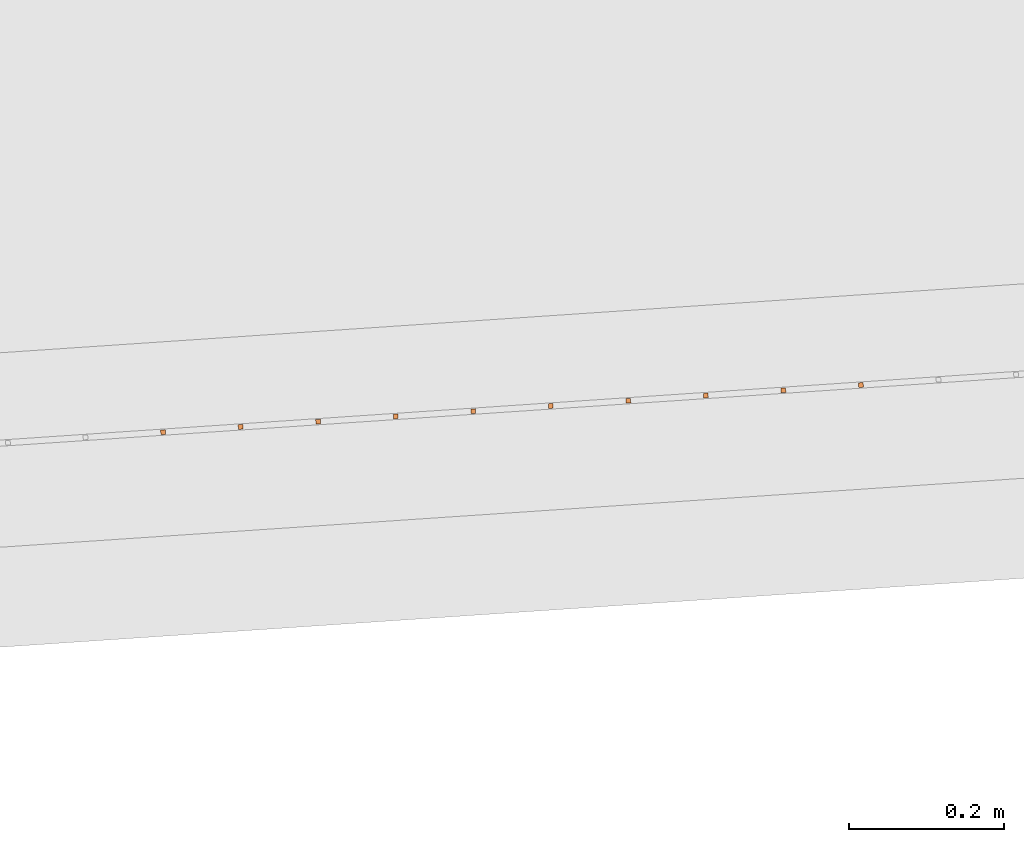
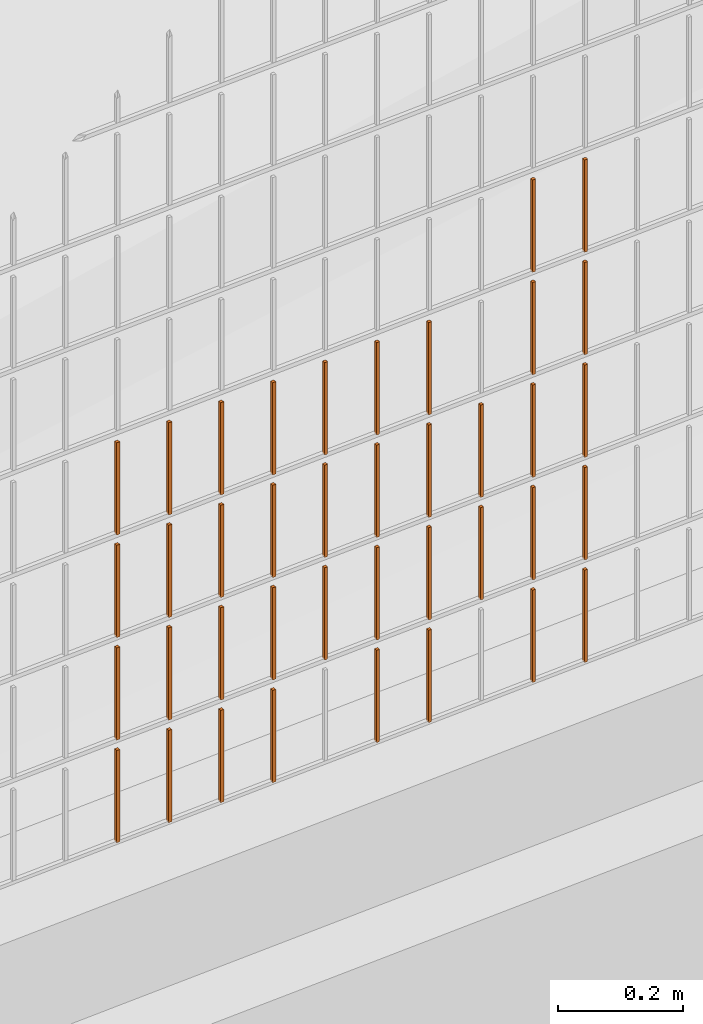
# One storey, part 91 of 1809: 39 proxies, 1 element without a shape of its own.
"""IFC2X3 building model written with IfcOpenShell, lengths in millimetres."""

from ifc_helpers import new_model, entity, si_unit, converted_unit, derived_unit, money_unit, direction, frame, origin_with_axes, place, context, subcontext, project, spatial, faceted_brep, source, transform, mapped, material, type_object, element, aggregate, save


model = new_model("IFC2X3")

# Units and contexts
model_context = context("Model", 3, precision=0.01, world=origin_with_axes(), true_north=direction((0.0, 1.0)))
body_context = subcontext(model_context, "Body", "Model", "MODEL_VIEW")
ifc_project = project(units=[si_unit("LENGTHUNIT", "METRE", prefix="MILLI"), si_unit("AREAUNIT", "SQUARE_METRE"), si_unit("VOLUMEUNIT", "CUBIC_METRE"), converted_unit("PLANEANGLEUNIT", "DEGREE", entity("IfcPlaneAngleMeasure", 0.0174532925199), si_unit("PLANEANGLEUNIT", "RADIAN"), dimensions=[0, 0, 0, 0, 0, 0, 0]), si_unit("SOLIDANGLEUNIT", "STERADIAN"), money_unit("EUR"), converted_unit("TIMEUNIT", "Year", entity("IfcTimeMeasure", 31556926.0), si_unit("TIMEUNIT", "SECOND"), dimensions=[0, 0, 1, 0, 0, 0, 0]), si_unit("MASSUNIT", "GRAM", prefix="KILO"), si_unit("THERMODYNAMICTEMPERATUREUNIT", "DEGREE_CELSIUS"), si_unit("LUMINOUSINTENSITYUNIT", "LUMEN"), si_unit("ENERGYUNIT", "JOULE", prefix="MEGA"), derived_unit("THERMALCONDUCTANCEUNIT", [(si_unit("POWERUNIT", "WATT"), 1), (si_unit("LENGTHUNIT", "METRE"), -1), (si_unit("THERMODYNAMICTEMPERATUREUNIT", "KELVIN"), -1)]), derived_unit("SPECIFICHEATCAPACITYUNIT", [(si_unit("ENERGYUNIT", "JOULE"), 1), (si_unit("MASSUNIT", "GRAM", prefix="KILO"), -1), (si_unit("THERMODYNAMICTEMPERATUREUNIT", "KELVIN"), -1)]), derived_unit("MASSDENSITYUNIT", [(si_unit("MASSUNIT", "GRAM", prefix="KILO"), 1), (si_unit("VOLUMEUNIT", "CUBIC_METRE"), -1)])], contexts=[model_context])

# Site, building, storey
site_placement = place(None, origin_with_axes())
site = spatial("IfcSite", under=ifc_project, at=site_placement, Name="Politse- ja Piirivalveameti ning Päästeameti ühishoone", CompositionType="ELEMENT")
building_placement = place(site_placement, origin_with_axes())
building = spatial("IfcBuilding", under=site, at=building_placement, Name="Politse- ja Piirivalveameti ning Päästeameti ühishoone", CompositionType="ELEMENT")
storey_placement = place(building_placement, origin_with_axes())
storey = spatial("IfcBuildingStorey", under=building, at=storey_placement, Name="Esimene korrus", CompositionType="ELEMENT", Elevation=0.0)

# Proxies
building_element_proxy_type_1 = type_object("IfcBuildingElementProxyType", Name="Railing Type", PredefinedType="NOTDEFINED")
proxy_1_placement = place(storey_placement, frame((89252.001212, -29183.4766571, 203.661247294), z_axis=(0.0, 0.0, 1.0), x_axis=(1.0, 0.0, 0.0)))
proxy_1 = element("IfcBuildingElementProxy", 1, at=proxy_1_placement, inside=storey, type_object=building_element_proxy_type_1, Name="PIIRDEAED")
ifc_material = material(Name="ET-03_Raud")
building_element_proxy_type_2 = type_object("IfcBuildingElementProxyType", Name="IfcBuildingElementProxy", PredefinedType="NOTDEFINED")
shared_shape_1 = source(origin_with_axes(), body_context, "Body", "Brep", [
    faceted_brep([(3.0, 3.0, -0.000752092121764), (-3.0, 3.0, -0.000752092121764), (-3.0, 3.0, 179.99926046), (3.0, 3.0, 179.99926046), (3.0, -3.0, 0.000752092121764), (-3.0, -3.0, 0.000752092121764), (-3.0, -3.0, 180.000764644), (3.0, -3.0, 180.000764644)], [[[0, 1, 2, 3]], [[0, 4, 5, 1]], [[1, 5, 6, 2]], [[3, 2, 6, 7]], [[4, 0, 3, 7]], [[5, 4, 7, 6]]]),
])
proxy_2_placement = place(proxy_1_placement, frame((-98801.5537883, -23971.4468564, 602.408654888), z_axis=(0.0, 0.0, 1.0), x_axis=(1.0, 0.0, 0.0)))
proxy_2 = element("IfcBuildingElementProxy", 2, at=proxy_2_placement, type_object=building_element_proxy_type_2, material=ifc_material, Name="BALUSTER - 001", context=body_context, shape_type="MappedRepresentation", body=[
    mapped(shared_shape_1, transform((0.0, 0.0, 0.0), x_axis=(-0.0673926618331, 0.997726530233, 0.0), y_axis=(-0.997726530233, -0.0673926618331, 0.0), z_axis=(0.0, 0.0, 1.0))),
])
proxy_3_placement = place(proxy_1_placement, frame((-98302.6905231, -23937.7505255, 802.534003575), z_axis=(0.0, 0.0, 1.0), x_axis=(1.0, 0.0, 0.0)))
proxy_3 = element("IfcBuildingElementProxy", 3, at=proxy_3_placement, type_object=building_element_proxy_type_2, material=ifc_material, Name="BALUSTER - 001", context=body_context, shape_type="MappedRepresentation", body=[
    mapped(shared_shape_1, transform((0.0, 0.0, 0.0), x_axis=(-0.0673926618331, 0.997726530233, 0.0), y_axis=(-0.997726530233, -0.0673926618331, 0.0), z_axis=(0.0, 0.0, 1.0))),
])
shared_shape_2 = source(origin_with_axes(), body_context, "Body", "Brep", [
    faceted_brep([(3.0, 3.0, -0.000752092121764), (-3.0, 3.0, -0.000752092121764), (-3.0, 3.0, 179.99926046), (3.0, 3.0, 179.99926046), (3.0, -3.0, 0.000752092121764), (-3.0, -3.0, 0.000752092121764), (-3.0, -3.0, 180.000764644), (3.0, -3.0, 180.000764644)], [[[0, 1, 2, 3]], [[0, 4, 5, 1]], [[1, 5, 6, 2]], [[3, 2, 6, 7]], [[4, 0, 3, 7]], [[5, 4, 7, 6]]]),
])
proxy_4_placement = place(proxy_1_placement, frame((-99001.0990943, -23984.9253888, 202.358515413), z_axis=(0.0, 0.0, 1.0), x_axis=(1.0, 0.0, 0.0)))
proxy_4 = element("IfcBuildingElementProxy", 4, at=proxy_4_placement, type_object=building_element_proxy_type_2, material=ifc_material, Name="BALUSTER - 001", context=body_context, shape_type="MappedRepresentation", body=[
    mapped(shared_shape_2, transform((0.0, 0.0, 0.0), x_axis=(-0.0673926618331, 0.997726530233, 0.0), y_axis=(-0.997726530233, -0.0673926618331, 0.0), z_axis=(0.0, 0.0, 1.0))),
])
proxy_5_placement = place(proxy_1_placement, frame((-98502.2358292, -23951.2290578, 402.4838641), z_axis=(0.0, 0.0, 1.0), x_axis=(1.0, 0.0, 0.0)))
proxy_5 = element("IfcBuildingElementProxy", 5, at=proxy_5_placement, type_object=building_element_proxy_type_2, material=ifc_material, Name="BALUSTER - 001", context=body_context, shape_type="MappedRepresentation", body=[
    mapped(shared_shape_2, transform((0.0, 0.0, 0.0), x_axis=(-0.0673926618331, 0.997726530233, 0.0), y_axis=(-0.997726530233, -0.0673926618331, 0.0), z_axis=(0.0, 0.0, 1.0))),
])
proxy_6_placement = place(proxy_1_placement, frame((-98801.5537883, -23971.4468564, 402.408654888), z_axis=(0.0, 0.0, 1.0), x_axis=(1.0, 0.0, 0.0)))
proxy_6 = element("IfcBuildingElementProxy", 6, at=proxy_6_placement, type_object=building_element_proxy_type_2, material=ifc_material, Name="BALUSTER - 001", context=body_context, shape_type="MappedRepresentation", body=[
    mapped(shared_shape_2, transform((0.0, 0.0, 0.0), x_axis=(-0.0673926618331, 0.997726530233, 0.0), y_axis=(-0.997726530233, -0.0673926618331, 0.0), z_axis=(0.0, 0.0, 1.0))),
])
proxy_7_placement = place(proxy_1_placement, frame((-98302.6905231, -23937.7505255, 602.534003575), z_axis=(0.0, 0.0, 1.0), x_axis=(1.0, 0.0, 0.0)))
proxy_7 = element("IfcBuildingElementProxy", 7, at=proxy_7_placement, type_object=building_element_proxy_type_2, material=ifc_material, Name="BALUSTER - 001", context=body_context, shape_type="MappedRepresentation", body=[
    mapped(shared_shape_2, transform((0.0, 0.0, 0.0), x_axis=(-0.0673926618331, 0.997726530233, 0.0), y_axis=(-0.997726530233, -0.0673926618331, 0.0), z_axis=(0.0, 0.0, 1.0))),
])
proxy_8_placement = place(proxy_1_placement, frame((-98502.2358292, -23951.2290578, 602.4838641), z_axis=(0.0, 0.0, 1.0), x_axis=(1.0, 0.0, 0.0)))
proxy_8 = element("IfcBuildingElementProxy", 8, at=proxy_8_placement, type_object=building_element_proxy_type_2, material=ifc_material, Name="BALUSTER - 001", context=body_context, shape_type="MappedRepresentation", body=[
    mapped(shared_shape_2, transform((0.0, 0.0, 0.0), x_axis=(-0.0673926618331, 0.997726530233, 0.0), y_axis=(-0.997726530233, -0.0673926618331, 0.0), z_axis=(0.0, 0.0, 1.0))),
])
proxy_9_placement = place(proxy_1_placement, frame((-99001.0990943, -23984.9253888, 602.358515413), z_axis=(0.0, 0.0, 1.0), x_axis=(1.0, 0.0, 0.0)))
proxy_9 = element("IfcBuildingElementProxy", 9, at=proxy_9_placement, type_object=building_element_proxy_type_2, material=ifc_material, Name="BALUSTER - 001", context=body_context, shape_type="MappedRepresentation", body=[
    mapped(shared_shape_2, transform((0.0, 0.0, 0.0), x_axis=(-0.0673926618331, 0.997726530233, 0.0), y_axis=(-0.997726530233, -0.0673926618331, 0.0), z_axis=(0.0, 0.0, 1.0))),
])
shared_shape_3 = source(origin_with_axes(), body_context, "Body", "Brep", [
    faceted_brep([(3.0, 3.0, -0.000752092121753), (-3.0, 3.0, -0.000752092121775), (-3.0, 3.0, 179.99926046), (3.0, 3.0, 179.99926046), (3.0, -3.0, 0.000752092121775), (-3.0, -3.0, 0.000752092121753), (-3.0, -3.0, 180.000764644), (3.0, -3.0, 180.000764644)], [[[0, 1, 2, 3]], [[0, 4, 5, 1]], [[1, 5, 6, 2]], [[3, 2, 6, 7]], [[4, 0, 3, 7]], [[5, 4, 7, 6]]]),
])
proxy_10_placement = place(proxy_1_placement, frame((-98202.9178701, -23931.0112593, 2.55907331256), z_axis=(0.0, 0.0, 1.0), x_axis=(1.0, 0.0, 0.0)))
proxy_10 = element("IfcBuildingElementProxy", 10, at=proxy_10_placement, type_object=building_element_proxy_type_2, material=ifc_material, Name="BALUSTER - 001", context=body_context, shape_type="MappedRepresentation", body=[
    mapped(shared_shape_3, transform((0.0, 0.0, 0.0), x_axis=(-0.0673926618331, 0.997726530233, 0.0), y_axis=(-0.997726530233, -0.0673926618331, 0.0), z_axis=(0.0, 0.0, 1.0))),
])
proxy_11_placement = place(proxy_1_placement, frame((-99100.8717473, -23991.6646549, 2.33344567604), z_axis=(0.0, 0.0, 1.0), x_axis=(1.0, 0.0, 0.0)))
proxy_11 = element("IfcBuildingElementProxy", 11, at=proxy_11_placement, type_object=building_element_proxy_type_2, material=ifc_material, Name="BALUSTER - 001", context=body_context, shape_type="MappedRepresentation", body=[
    mapped(shared_shape_3, transform((0.0, 0.0, 0.0), x_axis=(-0.0673926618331, 0.997726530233, 0.0), y_axis=(-0.997726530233, -0.0673926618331, 0.0), z_axis=(0.0, 0.0, 1.0))),
])
proxy_12_placement = place(proxy_1_placement, frame((-98202.9178701, -23931.0112593, 202.559073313), z_axis=(0.0, 0.0, 1.0), x_axis=(1.0, 0.0, 0.0)))
proxy_12 = element("IfcBuildingElementProxy", 12, at=proxy_12_placement, type_object=building_element_proxy_type_2, material=ifc_material, Name="BALUSTER - 001", context=body_context, shape_type="MappedRepresentation", body=[
    mapped(shared_shape_3, transform((0.0, 0.0, 0.0), x_axis=(-0.0673926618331, 0.997726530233, 0.0), y_axis=(-0.997726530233, -0.0673926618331, 0.0), z_axis=(0.0, 0.0, 1.0))),
])
shared_shape_4 = source(origin_with_axes(), body_context, "Body", "Brep", [
    faceted_brep([(3.0, 3.0, -0.000752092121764), (-3.0, 3.0, -0.000752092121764), (-3.0, 3.0, 179.99926046), (3.0, 3.0, 179.99926046), (3.0, -3.0, 0.000752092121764), (-3.0, -3.0, 0.000752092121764), (-3.0, -3.0, 180.000764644), (3.0, -3.0, 180.000764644)], [[[0, 1, 2, 3]], [[0, 4, 5, 1]], [[1, 5, 6, 2]], [[3, 2, 6, 7]], [[4, 0, 3, 7]], [[5, 4, 7, 6]]]),
])
proxy_13_placement = place(proxy_1_placement, frame((-98901.3264413, -23978.1861226, 202.383585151), z_axis=(0.0, 0.0, 1.0), x_axis=(1.0, 0.0, 0.0)))
proxy_13 = element("IfcBuildingElementProxy", 13, at=proxy_13_placement, type_object=building_element_proxy_type_2, material=ifc_material, Name="BALUSTER - 001", context=body_context, shape_type="MappedRepresentation", body=[
    mapped(shared_shape_4, transform((0.0, 0.0, 0.0), x_axis=(-0.0673926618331, 0.997726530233, 0.0), y_axis=(-0.997726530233, -0.0673926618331, 0.0), z_axis=(0.0, 0.0, 1.0))),
])
shared_shape_5 = source(origin_with_axes(), body_context, "Body", "Brep", [
    faceted_brep([(3.0, 3.0, -0.000752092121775), (-3.0, 3.0, -0.000752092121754), (-3.0, 3.0, 179.99926046), (3.0, 3.0, 179.99926046), (3.0, -3.0, 0.000752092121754), (-3.0, -3.0, 0.000752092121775), (-3.0, -3.0, 180.000764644), (3.0, -3.0, 180.000764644)], [[[0, 1, 2, 3]], [[0, 4, 5, 1]], [[1, 5, 6, 2]], [[3, 2, 6, 7]], [[4, 0, 3, 7]], [[5, 4, 7, 6]]]),
])
proxy_14_placement = place(proxy_1_placement, frame((-98602.0084822, -23957.968324, 202.458794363), z_axis=(0.0, 0.0, 1.0), x_axis=(1.0, 0.0, 0.0)))
proxy_14 = element("IfcBuildingElementProxy", 14, at=proxy_14_placement, type_object=building_element_proxy_type_2, material=ifc_material, Name="BALUSTER - 001", context=body_context, shape_type="MappedRepresentation", body=[
    mapped(shared_shape_5, transform((0.0, 0.0, 0.0), x_axis=(-0.0673926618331, 0.997726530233, 0.0), y_axis=(-0.997726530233, -0.0673926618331, 0.0), z_axis=(0.0, 0.0, 1.0))),
])
proxy_15_placement = place(proxy_1_placement, frame((-98602.0084822, -23957.968324, 402.458794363), z_axis=(0.0, 0.0, 1.0), x_axis=(1.0, 0.0, 0.0)))
proxy_15 = element("IfcBuildingElementProxy", 15, at=proxy_15_placement, type_object=building_element_proxy_type_2, material=ifc_material, Name="BALUSTER - 001", context=body_context, shape_type="MappedRepresentation", body=[
    mapped(shared_shape_5, transform((0.0, 0.0, 0.0), x_axis=(-0.0673926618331, 0.997726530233, 0.0), y_axis=(-0.997726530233, -0.0673926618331, 0.0), z_axis=(0.0, 0.0, 1.0))),
])
proxy_16_placement = place(proxy_1_placement, frame((-98602.0084822, -23957.968324, 602.458794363), z_axis=(0.0, 0.0, 1.0), x_axis=(1.0, 0.0, 0.0)))
proxy_16 = element("IfcBuildingElementProxy", 16, at=proxy_16_placement, type_object=building_element_proxy_type_2, material=ifc_material, Name="BALUSTER - 001", context=body_context, shape_type="MappedRepresentation", body=[
    mapped(shared_shape_5, transform((0.0, 0.0, 0.0), x_axis=(-0.0673926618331, 0.997726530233, 0.0), y_axis=(-0.997726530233, -0.0673926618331, 0.0), z_axis=(0.0, 0.0, 1.0))),
])
shared_shape_6 = source(origin_with_axes(), body_context, "Body", "Brep", [
    faceted_brep([(3.0, 3.0, -0.000752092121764), (-3.0, 3.0, -0.000752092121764), (-3.0, 3.0, 179.99926046), (3.0, 3.0, 179.99926046), (3.0, -3.0, 0.000752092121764), (-3.0, -3.0, 0.000752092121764), (-3.0, -3.0, 180.000764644), (3.0, -3.0, 180.000764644)], [[[0, 1, 2, 3]], [[0, 4, 5, 1]], [[1, 5, 6, 2]], [[3, 2, 6, 7]], [[4, 0, 3, 7]], [[5, 4, 7, 6]]]),
])
proxy_17_placement = place(proxy_1_placement, frame((-98901.3264413, -23978.1861226, 402.383585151), z_axis=(0.0, 0.0, 1.0), x_axis=(1.0, 0.0, 0.0)))
proxy_17 = element("IfcBuildingElementProxy", 17, at=proxy_17_placement, type_object=building_element_proxy_type_2, material=ifc_material, Name="BALUSTER - 001", context=body_context, shape_type="MappedRepresentation", body=[
    mapped(shared_shape_6, transform((0.0, 0.0, 0.0), x_axis=(-0.0673926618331, 0.997726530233, 0.0), y_axis=(-0.997726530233, -0.0673926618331, 0.0), z_axis=(0.0, 0.0, 1.0))),
])
proxy_18_placement = place(proxy_1_placement, frame((-98901.3264413, -23978.1861226, 602.383585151), z_axis=(0.0, 0.0, 1.0), x_axis=(1.0, 0.0, 0.0)))
proxy_18 = element("IfcBuildingElementProxy", 18, at=proxy_18_placement, type_object=building_element_proxy_type_2, material=ifc_material, Name="BALUSTER - 001", context=body_context, shape_type="MappedRepresentation", body=[
    mapped(shared_shape_6, transform((0.0, 0.0, 0.0), x_axis=(-0.0673926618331, 0.997726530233, 0.0), y_axis=(-0.997726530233, -0.0673926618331, 0.0), z_axis=(0.0, 0.0, 1.0))),
])
shared_shape_7 = source(origin_with_axes(), body_context, "Body", "Brep", [
    faceted_brep([(3.0, 3.0, -0.000752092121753), (-3.0, 3.0, -0.000752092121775), (-3.0, 3.0, 179.99926046), (3.0, 3.0, 179.99926046), (3.0, -3.0, 0.000752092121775), (-3.0, -3.0, 0.000752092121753), (-3.0, -3.0, 180.000764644), (3.0, -3.0, 180.000764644)], [[[0, 1, 2, 3]], [[0, 4, 5, 1]], [[1, 5, 6, 2]], [[3, 2, 6, 7]], [[4, 0, 3, 7]], [[5, 4, 7, 6]]]),
])
proxy_19_placement = place(proxy_1_placement, frame((-99100.8717473, -23991.6646549, 602.333445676), z_axis=(0.0, 0.0, 1.0), x_axis=(1.0, 0.0, 0.0)))
proxy_19 = element("IfcBuildingElementProxy", 19, at=proxy_19_placement, type_object=building_element_proxy_type_2, material=ifc_material, Name="BALUSTER - 001", context=body_context, shape_type="MappedRepresentation", body=[
    mapped(shared_shape_7, transform((0.0, 0.0, 0.0), x_axis=(-0.0673926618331, 0.997726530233, 0.0), y_axis=(-0.997726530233, -0.0673926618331, 0.0), z_axis=(0.0, 0.0, 1.0))),
])
shared_shape_8 = source(origin_with_axes(), body_context, "Body", "Brep", [
    faceted_brep([(3.0, 3.0, -0.000752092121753), (-3.0, 3.0, -0.000752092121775), (-3.0, 3.0, 179.99926046), (3.0, 3.0, 179.99926046), (3.0, -3.0, 0.000752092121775), (-3.0, -3.0, 0.000752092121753), (-3.0, -3.0, 180.000764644), (3.0, -3.0, 180.000764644)], [[[0, 1, 2, 3]], [[0, 4, 5, 1]], [[1, 5, 6, 2]], [[3, 2, 6, 7]], [[4, 0, 3, 7]], [[5, 4, 7, 6]]]),
])
proxy_20_placement = place(proxy_1_placement, frame((-98202.9178701, -23931.0112593, 602.559073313), z_axis=(0.0, 0.0, 1.0), x_axis=(1.0, 0.0, 0.0)))
proxy_20 = element("IfcBuildingElementProxy", 20, at=proxy_20_placement, type_object=building_element_proxy_type_2, material=ifc_material, Name="BALUSTER - 001", context=body_context, shape_type="MappedRepresentation", body=[
    mapped(shared_shape_8, transform((0.0, 0.0, 0.0), x_axis=(-0.0673926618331, 0.997726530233, 0.0), y_axis=(-0.997726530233, -0.0673926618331, 0.0), z_axis=(0.0, 0.0, 1.0))),
])
proxy_21_placement = place(proxy_1_placement, frame((-98202.9178701, -23931.0112593, 802.559073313), z_axis=(0.0, 0.0, 1.0), x_axis=(1.0, 0.0, 0.0)))
proxy_21 = element("IfcBuildingElementProxy", 21, at=proxy_21_placement, type_object=building_element_proxy_type_2, material=ifc_material, Name="BALUSTER - 001", context=body_context, shape_type="MappedRepresentation", body=[
    mapped(shared_shape_8, transform((0.0, 0.0, 0.0), x_axis=(-0.0673926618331, 0.997726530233, 0.0), y_axis=(-0.997726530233, -0.0673926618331, 0.0), z_axis=(0.0, 0.0, 1.0))),
])
shared_shape_9 = source(origin_with_axes(), body_context, "Body", "Brep", [
    faceted_brep([(3.0, 3.0, -0.000752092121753), (-3.0, 3.0, -0.000752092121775), (-3.0, 3.0, 179.99926046), (3.0, 3.0, 179.99926046), (3.0, -3.0, 0.000752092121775), (-3.0, -3.0, 0.000752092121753), (-3.0, -3.0, 180.000764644), (3.0, -3.0, 180.000764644)], [[[0, 1, 2, 3]], [[0, 4, 5, 1]], [[1, 5, 6, 2]], [[3, 2, 6, 7]], [[4, 0, 3, 7]], [[5, 4, 7, 6]]]),
])
proxy_22_placement = place(proxy_1_placement, frame((-99100.8717473, -23991.6646549, 202.333445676), z_axis=(0.0, 0.0, 1.0), x_axis=(1.0, 0.0, 0.0)))
proxy_22 = element("IfcBuildingElementProxy", 22, at=proxy_22_placement, type_object=building_element_proxy_type_2, material=ifc_material, Name="BALUSTER - 001", context=body_context, shape_type="MappedRepresentation", body=[
    mapped(shared_shape_9, transform((0.0, 0.0, 0.0), x_axis=(-0.0673926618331, 0.997726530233, 0.0), y_axis=(-0.997726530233, -0.0673926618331, 0.0), z_axis=(0.0, 0.0, 1.0))),
])
proxy_23_placement = place(proxy_1_placement, frame((-98202.9178701, -23931.0112593, 402.559073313), z_axis=(0.0, 0.0, 1.0), x_axis=(1.0, 0.0, 0.0)))
proxy_23 = element("IfcBuildingElementProxy", 23, at=proxy_23_placement, type_object=building_element_proxy_type_2, material=ifc_material, Name="BALUSTER - 001", context=body_context, shape_type="MappedRepresentation", body=[
    mapped(shared_shape_9, transform((0.0, 0.0, 0.0), x_axis=(-0.0673926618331, 0.997726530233, 0.0), y_axis=(-0.997726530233, -0.0673926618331, 0.0), z_axis=(0.0, 0.0, 1.0))),
])
proxy_24_placement = place(proxy_1_placement, frame((-99100.8717473, -23991.6646549, 402.333445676), z_axis=(0.0, 0.0, 1.0), x_axis=(1.0, 0.0, 0.0)))
proxy_24 = element("IfcBuildingElementProxy", 24, at=proxy_24_placement, type_object=building_element_proxy_type_2, material=ifc_material, Name="BALUSTER - 001", context=body_context, shape_type="MappedRepresentation", body=[
    mapped(shared_shape_9, transform((0.0, 0.0, 0.0), x_axis=(-0.0673926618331, 0.997726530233, 0.0), y_axis=(-0.997726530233, -0.0673926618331, 0.0), z_axis=(0.0, 0.0, 1.0))),
])
shared_shape_10 = source(origin_with_axes(), body_context, "Body", "Brep", [
    faceted_brep([(3.0, 3.0, -0.000752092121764), (-3.0, 3.0, -0.000752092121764), (-3.0, 3.0, 179.99926046), (3.0, 3.0, 179.99926046), (3.0, -3.0, 0.000752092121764), (-3.0, -3.0, 0.000752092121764), (-3.0, -3.0, 180.000764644), (3.0, -3.0, 180.000764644)], [[[0, 1, 2, 3]], [[0, 4, 5, 1]], [[1, 5, 6, 2]], [[3, 2, 6, 7]], [[4, 0, 3, 7]], [[5, 4, 7, 6]]]),
])
proxy_25_placement = place(proxy_1_placement, frame((-98801.5537883, -23971.4468564, 202.408654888), z_axis=(0.0, 0.0, 1.0), x_axis=(1.0, 0.0, 0.0)))
proxy_25 = element("IfcBuildingElementProxy", 25, at=proxy_25_placement, type_object=building_element_proxy_type_2, material=ifc_material, Name="BALUSTER - 001", context=body_context, shape_type="MappedRepresentation", body=[
    mapped(shared_shape_10, transform((0.0, 0.0, 0.0), x_axis=(-0.0673926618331, 0.997726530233, 0.0), y_axis=(-0.997726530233, -0.0673926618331, 0.0), z_axis=(0.0, 0.0, 1.0))),
])
shared_shape_11 = source(origin_with_axes(), body_context, "Body", "Brep", [
    faceted_brep([(3.0, 3.0, -0.000752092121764), (-3.0, 3.0, -0.000752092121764), (-3.0, 3.0, 179.99926046), (3.0, 3.0, 179.99926046), (3.0, -3.0, 0.000752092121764), (-3.0, -3.0, 0.000752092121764), (-3.0, -3.0, 180.000764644), (3.0, -3.0, 180.000764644)], [[[0, 1, 2, 3]], [[0, 4, 5, 1]], [[1, 5, 6, 2]], [[3, 2, 6, 7]], [[4, 0, 3, 7]], [[5, 4, 7, 6]]]),
])
proxy_26_placement = place(proxy_1_placement, frame((-98502.2358292, -23951.2290578, 202.4838641), z_axis=(0.0, 0.0, 1.0), x_axis=(1.0, 0.0, 0.0)))
proxy_26 = element("IfcBuildingElementProxy", 26, at=proxy_26_placement, type_object=building_element_proxy_type_2, material=ifc_material, Name="BALUSTER - 001", context=body_context, shape_type="MappedRepresentation", body=[
    mapped(shared_shape_11, transform((0.0, 0.0, 0.0), x_axis=(-0.0673926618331, 0.997726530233, 0.0), y_axis=(-0.997726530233, -0.0673926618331, 0.0), z_axis=(0.0, 0.0, 1.0))),
])
proxy_27_placement = place(proxy_1_placement, frame((-98302.6905231, -23937.7505255, 402.534003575), z_axis=(0.0, 0.0, 1.0), x_axis=(1.0, 0.0, 0.0)))
proxy_27 = element("IfcBuildingElementProxy", 27, at=proxy_27_placement, type_object=building_element_proxy_type_2, material=ifc_material, Name="BALUSTER - 001", context=body_context, shape_type="MappedRepresentation", body=[
    mapped(shared_shape_11, transform((0.0, 0.0, 0.0), x_axis=(-0.0673926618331, 0.997726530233, 0.0), y_axis=(-0.997726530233, -0.0673926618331, 0.0), z_axis=(0.0, 0.0, 1.0))),
])
proxy_28_placement = place(proxy_1_placement, frame((-99001.0990943, -23984.9253888, 402.358515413), z_axis=(0.0, 0.0, 1.0), x_axis=(1.0, 0.0, 0.0)))
proxy_28 = element("IfcBuildingElementProxy", 28, at=proxy_28_placement, type_object=building_element_proxy_type_2, material=ifc_material, Name="BALUSTER - 001", context=body_context, shape_type="MappedRepresentation", body=[
    mapped(shared_shape_11, transform((0.0, 0.0, 0.0), x_axis=(-0.0673926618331, 0.997726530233, 0.0), y_axis=(-0.997726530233, -0.0673926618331, 0.0), z_axis=(0.0, 0.0, 1.0))),
])
shared_shape_12 = source(origin_with_axes(), body_context, "Body", "Brep", [
    faceted_brep([(3.0, 3.0, -0.000752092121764), (-3.0, 3.0, -0.000752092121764), (-3.0, 3.0, 179.99926046), (3.0, 3.0, 179.99926046), (3.0, -3.0, 0.000752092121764), (-3.0, -3.0, 0.000752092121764), (-3.0, -3.0, 180.000764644), (3.0, -3.0, 180.000764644)], [[[0, 1, 2, 3]], [[0, 4, 5, 1]], [[1, 5, 6, 2]], [[3, 2, 6, 7]], [[4, 0, 3, 7]], [[5, 4, 7, 6]]]),
])
proxy_29_placement = place(proxy_1_placement, frame((-98502.2358292, -23951.2290578, 2.48386410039), z_axis=(0.0, 0.0, 1.0), x_axis=(1.0, 0.0, 0.0)))
proxy_29 = element("IfcBuildingElementProxy", 29, at=proxy_29_placement, type_object=building_element_proxy_type_2, material=ifc_material, Name="BALUSTER - 001", context=body_context, shape_type="MappedRepresentation", body=[
    mapped(shared_shape_12, transform((0.0, 0.0, 0.0), x_axis=(-0.0673926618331, 0.997726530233, 0.0), y_axis=(-0.997726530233, -0.0673926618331, 0.0), z_axis=(0.0, 0.0, 1.0))),
])
proxy_30_placement = place(proxy_1_placement, frame((-98801.5537883, -23971.4468564, 2.40865488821), z_axis=(0.0, 0.0, 1.0), x_axis=(1.0, 0.0, 0.0)))
proxy_30 = element("IfcBuildingElementProxy", 30, at=proxy_30_placement, type_object=building_element_proxy_type_2, material=ifc_material, Name="BALUSTER - 001", context=body_context, shape_type="MappedRepresentation", body=[
    mapped(shared_shape_12, transform((0.0, 0.0, 0.0), x_axis=(-0.0673926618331, 0.997726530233, 0.0), y_axis=(-0.997726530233, -0.0673926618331, 0.0), z_axis=(0.0, 0.0, 1.0))),
])
proxy_31_placement = place(proxy_1_placement, frame((-98302.6905231, -23937.7505255, 202.534003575), z_axis=(0.0, 0.0, 1.0), x_axis=(1.0, 0.0, 0.0)))
proxy_31 = element("IfcBuildingElementProxy", 31, at=proxy_31_placement, type_object=building_element_proxy_type_2, material=ifc_material, Name="BALUSTER - 001", context=body_context, shape_type="MappedRepresentation", body=[
    mapped(shared_shape_12, transform((0.0, 0.0, 0.0), x_axis=(-0.0673926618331, 0.997726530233, 0.0), y_axis=(-0.997726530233, -0.0673926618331, 0.0), z_axis=(0.0, 0.0, 1.0))),
])
shared_shape_13 = source(origin_with_axes(), body_context, "Body", "Brep", [
    faceted_brep([(3.0, 3.0, -0.000752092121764), (-3.0, 3.0, -0.000752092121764), (-3.0, 3.0, 179.99926046), (3.0, 3.0, 179.99926046), (3.0, -3.0, 0.000752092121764), (-3.0, -3.0, 0.000752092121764), (-3.0, -3.0, 180.000764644), (3.0, -3.0, 180.000764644)], [[[0, 1, 2, 3]], [[0, 4, 5, 1]], [[1, 5, 6, 2]], [[3, 2, 6, 7]], [[4, 0, 3, 7]], [[5, 4, 7, 6]]]),
])
proxy_32_placement = place(proxy_1_placement, frame((-98302.6905231, -23937.7505255, 2.53400357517), z_axis=(0.0, 0.0, 1.0), x_axis=(1.0, 0.0, 0.0)))
proxy_32 = element("IfcBuildingElementProxy", 32, at=proxy_32_placement, type_object=building_element_proxy_type_2, material=ifc_material, Name="BALUSTER - 001", context=body_context, shape_type="MappedRepresentation", body=[
    mapped(shared_shape_13, transform((0.0, 0.0, 0.0), x_axis=(-0.0673926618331, 0.997726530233, 0.0), y_axis=(-0.997726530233, -0.0673926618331, 0.0), z_axis=(0.0, 0.0, 1.0))),
])
shared_shape_14 = source(origin_with_axes(), body_context, "Body", "Brep", [
    faceted_brep([(3.0, 3.0, -0.000752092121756), (-3.0, 3.0, -0.000752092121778), (-3.0, 3.0, 179.99926046), (3.0, 3.0, 179.99926046), (3.0, -3.0, 0.000752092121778), (-3.0, -3.0, 0.000752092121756), (-3.0, -3.0, 180.000764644), (3.0, -3.0, 180.000764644)], [[[0, 1, 2, 3]], [[0, 4, 5, 1]], [[1, 5, 6, 2]], [[3, 2, 6, 7]], [[4, 0, 3, 7]], [[5, 4, 7, 6]]]),
])
proxy_33_placement = place(proxy_1_placement, frame((-98701.7811352, -23964.7075902, 202.433724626), z_axis=(0.0, 0.0, 1.0), x_axis=(1.0, 0.0, 0.0)))
proxy_33 = element("IfcBuildingElementProxy", 33, at=proxy_33_placement, type_object=building_element_proxy_type_2, material=ifc_material, Name="BALUSTER - 001", context=body_context, shape_type="MappedRepresentation", body=[
    mapped(shared_shape_14, transform((0.0, 0.0, 0.0), x_axis=(-0.0673926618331, 0.997726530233, 0.0), y_axis=(-0.997726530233, -0.0673926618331, 0.0), z_axis=(0.0, 0.0, 1.0))),
])
shared_shape_15 = source(origin_with_axes(), body_context, "Body", "Brep", [
    faceted_brep([(3.0, 3.0, -0.000752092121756), (-3.0, 3.0, -0.000752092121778), (-3.0, 3.0, 179.99926046), (3.0, 3.0, 179.99926046), (3.0, -3.0, 0.000752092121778), (-3.0, -3.0, 0.000752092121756), (-3.0, -3.0, 180.000764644), (3.0, -3.0, 180.000764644)], [[[0, 1, 2, 3]], [[0, 4, 5, 1]], [[1, 5, 6, 2]], [[3, 2, 6, 7]], [[4, 0, 3, 7]], [[5, 4, 7, 6]]]),
])
proxy_34_placement = place(proxy_1_placement, frame((-98701.7811352, -23964.7075902, 402.433724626), z_axis=(0.0, 0.0, 1.0), x_axis=(1.0, 0.0, 0.0)))
proxy_34 = element("IfcBuildingElementProxy", 34, at=proxy_34_placement, type_object=building_element_proxy_type_2, material=ifc_material, Name="BALUSTER - 001", context=body_context, shape_type="MappedRepresentation", body=[
    mapped(shared_shape_15, transform((0.0, 0.0, 0.0), x_axis=(-0.0673926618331, 0.997726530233, 0.0), y_axis=(-0.997726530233, -0.0673926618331, 0.0), z_axis=(0.0, 0.0, 1.0))),
])
shared_shape_16 = source(origin_with_axes(), body_context, "Body", "Brep", [
    faceted_brep([(3.0, 3.0, -0.000752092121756), (-3.0, 3.0, -0.000752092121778), (-3.0, 3.0, 179.99926046), (3.0, 3.0, 179.99926046), (3.0, -3.0, 0.000752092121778), (-3.0, -3.0, 0.000752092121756), (-3.0, -3.0, 180.000764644), (3.0, -3.0, 180.000764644)], [[[0, 1, 2, 3]], [[0, 4, 5, 1]], [[1, 5, 6, 2]], [[3, 2, 6, 7]], [[4, 0, 3, 7]], [[5, 4, 7, 6]]]),
])
proxy_35_placement = place(proxy_1_placement, frame((-98701.7811352, -23964.7075902, 602.433724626), z_axis=(0.0, 0.0, 1.0), x_axis=(1.0, 0.0, 0.0)))
proxy_35 = element("IfcBuildingElementProxy", 35, at=proxy_35_placement, type_object=building_element_proxy_type_2, material=ifc_material, Name="BALUSTER - 001", context=body_context, shape_type="MappedRepresentation", body=[
    mapped(shared_shape_16, transform((0.0, 0.0, 0.0), x_axis=(-0.0673926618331, 0.997726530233, 0.0), y_axis=(-0.997726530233, -0.0673926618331, 0.0), z_axis=(0.0, 0.0, 1.0))),
])
shared_shape_17 = source(origin_with_axes(), body_context, "Body", "Brep", [
    faceted_brep([(3.0, 3.0, -0.000752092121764), (-3.0, 3.0, -0.000752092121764), (-3.0, 3.0, 179.99926046), (3.0, 3.0, 179.99926046), (3.0, -3.0, 0.000752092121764), (-3.0, -3.0, 0.000752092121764), (-3.0, -3.0, 180.000764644), (3.0, -3.0, 180.000764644)], [[[0, 1, 2, 3]], [[0, 4, 5, 1]], [[1, 5, 6, 2]], [[3, 2, 6, 7]], [[4, 0, 3, 7]], [[5, 4, 7, 6]]]),
])
proxy_36_placement = place(proxy_1_placement, frame((-99001.0990943, -23984.9253888, 2.35851541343), z_axis=(0.0, 0.0, 1.0), x_axis=(1.0, 0.0, 0.0)))
proxy_36 = element("IfcBuildingElementProxy", 36, at=proxy_36_placement, type_object=building_element_proxy_type_2, material=ifc_material, Name="BALUSTER - 001", context=body_context, shape_type="MappedRepresentation", body=[
    mapped(shared_shape_17, transform((0.0, 0.0, 0.0), x_axis=(-0.0673926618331, 0.997726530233, 0.0), y_axis=(-0.997726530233, -0.0673926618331, 0.0), z_axis=(0.0, 0.0, 1.0))),
])
shared_shape_18 = source(origin_with_axes(), body_context, "Body", "Brep", [
    faceted_brep([(3.0, 3.0, -0.000752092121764), (-3.0, 3.0, -0.000752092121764), (-3.0, 3.0, 179.99926046), (3.0, 3.0, 179.99926046), (3.0, -3.0, 0.000752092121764), (-3.0, -3.0, 0.000752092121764), (-3.0, -3.0, 180.000764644), (3.0, -3.0, 180.000764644)], [[[0, 1, 2, 3]], [[0, 4, 5, 1]], [[1, 5, 6, 2]], [[3, 2, 6, 7]], [[4, 0, 3, 7]], [[5, 4, 7, 6]]]),
])
proxy_37_placement = place(proxy_1_placement, frame((-98901.3264413, -23978.1861226, 2.38358515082), z_axis=(0.0, 0.0, 1.0), x_axis=(1.0, 0.0, 0.0)))
proxy_37 = element("IfcBuildingElementProxy", 37, at=proxy_37_placement, type_object=building_element_proxy_type_2, material=ifc_material, Name="BALUSTER - 001", context=body_context, shape_type="MappedRepresentation", body=[
    mapped(shared_shape_18, transform((0.0, 0.0, 0.0), x_axis=(-0.0673926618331, 0.997726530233, 0.0), y_axis=(-0.997726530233, -0.0673926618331, 0.0), z_axis=(0.0, 0.0, 1.0))),
])
shared_shape_19 = source(origin_with_axes(), body_context, "Body", "Brep", [
    faceted_brep([(3.0, 3.0, -0.000752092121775), (-3.0, 3.0, -0.000752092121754), (-3.0, 3.0, 179.99926046), (3.0, 3.0, 179.99926046), (3.0, -3.0, 0.000752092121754), (-3.0, -3.0, 0.000752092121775), (-3.0, -3.0, 180.000764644), (3.0, -3.0, 180.000764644)], [[[0, 1, 2, 3]], [[0, 4, 5, 1]], [[1, 5, 6, 2]], [[3, 2, 6, 7]], [[4, 0, 3, 7]], [[5, 4, 7, 6]]]),
])
proxy_38_placement = place(proxy_1_placement, frame((-98602.0084822, -23957.968324, 2.458794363), z_axis=(0.0, 0.0, 1.0), x_axis=(1.0, 0.0, 0.0)))
proxy_38 = element("IfcBuildingElementProxy", 38, at=proxy_38_placement, type_object=building_element_proxy_type_2, material=ifc_material, Name="BALUSTER - 001", context=body_context, shape_type="MappedRepresentation", body=[
    mapped(shared_shape_19, transform((0.0, 0.0, 0.0), x_axis=(-0.0673926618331, 0.997726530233, 0.0), y_axis=(-0.997726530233, -0.0673926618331, 0.0), z_axis=(0.0, 0.0, 1.0))),
])
shared_shape_20 = source(origin_with_axes(), body_context, "Body", "Brep", [
    faceted_brep([(3.0, 3.0, -0.000752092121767), (-3.0, 3.0, -0.000752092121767), (-3.0, 3.0, 179.99926046), (3.0, 3.0, 179.99926046), (3.0, -3.0, 0.000752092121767), (-3.0, -3.0, 0.000752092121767), (-3.0, -3.0, 180.000764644), (3.0, -3.0, 180.000764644)], [[[0, 1, 2, 3]], [[0, 4, 5, 1]], [[1, 5, 6, 2]], [[3, 2, 6, 7]], [[4, 0, 3, 7]], [[5, 4, 7, 6]]]),
])
proxy_39_placement = place(proxy_1_placement, frame((-98402.4631762, -23944.4897917, 202.508933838), z_axis=(0.0, 0.0, 1.0), x_axis=(1.0, 0.0, 0.0)))
proxy_39 = element("IfcBuildingElementProxy", 39, at=proxy_39_placement, type_object=building_element_proxy_type_2, material=ifc_material, Name="BALUSTER - 001", context=body_context, shape_type="MappedRepresentation", body=[
    mapped(shared_shape_20, transform((0.0, 0.0, 0.0), x_axis=(-0.0673926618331, 0.997726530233, 0.0), y_axis=(-0.997726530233, -0.0673926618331, 0.0), z_axis=(0.0, 0.0, 1.0))),
])
proxy_40_placement = place(proxy_1_placement, frame((-98402.4631762, -23944.4897917, 402.508933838), z_axis=(0.0, 0.0, 1.0), x_axis=(1.0, 0.0, 0.0)))
proxy_40 = element("IfcBuildingElementProxy", 40, at=proxy_40_placement, type_object=building_element_proxy_type_2, material=ifc_material, Name="BALUSTER - 001", context=body_context, shape_type="MappedRepresentation", body=[
    mapped(shared_shape_20, transform((0.0, 0.0, 0.0), x_axis=(-0.0673926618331, 0.997726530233, 0.0), y_axis=(-0.997726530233, -0.0673926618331, 0.0), z_axis=(0.0, 0.0, 1.0))),
])
aggregate(proxy_1, [proxy_10, proxy_32, proxy_29, proxy_38, proxy_30, proxy_37, proxy_36, proxy_11, proxy_12, proxy_31, proxy_39, proxy_26, proxy_14, proxy_33, proxy_25, proxy_13, proxy_4, proxy_22, proxy_23, proxy_27, proxy_40, proxy_5, proxy_15, proxy_34, proxy_6, proxy_17, proxy_28, proxy_24, proxy_20, proxy_7, proxy_8, proxy_16, proxy_35, proxy_2, proxy_18, proxy_9, proxy_19, proxy_21, proxy_3])

save(model, "model.ifc")
